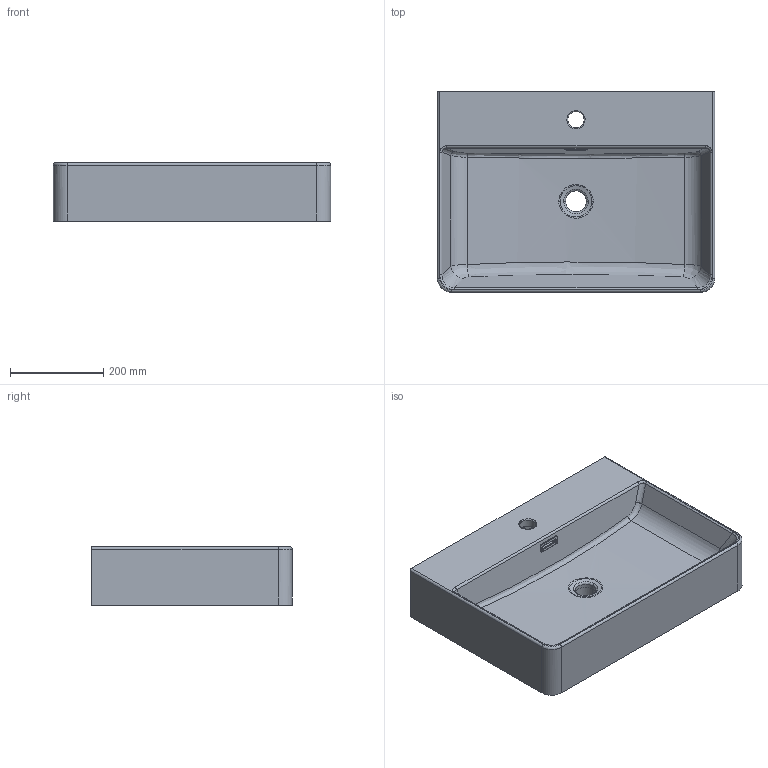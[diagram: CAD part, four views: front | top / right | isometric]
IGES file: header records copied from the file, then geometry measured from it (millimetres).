
Global section: file name: 758c99c9-9841-4540-9b49-ccacc333e877; native system: unknown; preprocessor: unknown; author: unknown; organization: unknown; date: 20201207.094539; units: millimetre
Bounding box: 595 x 430 x 125 mm (x, y, z)
Volume: 13040583.8 mm3; surface area: 970592.1 mm2
Topology: 2 solids, 2 shells, 246 faces, 564 edges, 325 vertices
Faces by surface type: bspline 246
